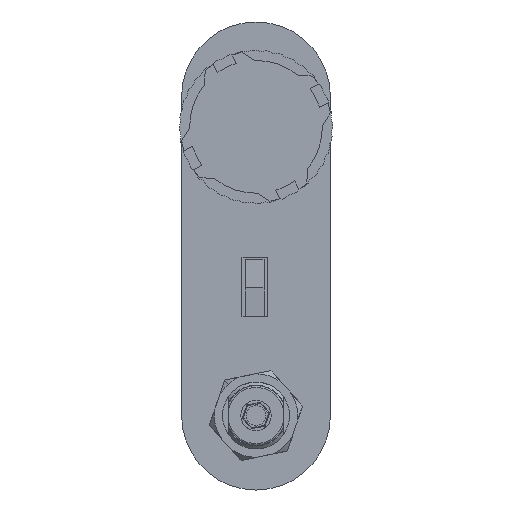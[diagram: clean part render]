
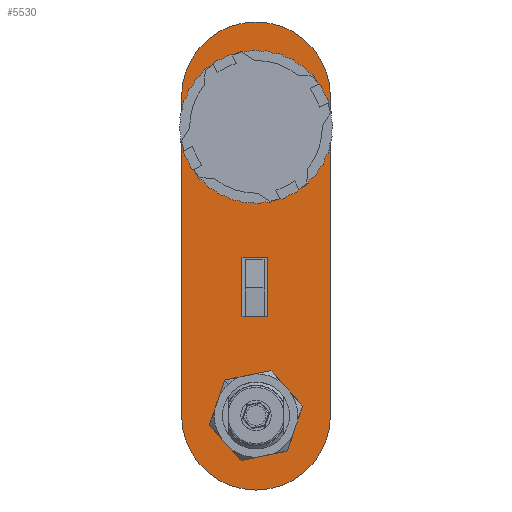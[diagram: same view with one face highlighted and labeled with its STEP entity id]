
A CAD part, front view. The second image highlights one B-rep face of the part: STEP entity #5530.
In plain terms, the highlighted planar face has unit normal (0, -1, 0).
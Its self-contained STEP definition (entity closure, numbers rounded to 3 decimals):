
#340 = EDGE_LOOP ( 'NONE', ( #3621, #3622 ) ) ;
#354 = EDGE_LOOP ( 'NONE', ( #3617, #3618, #3619, #3620 ) ) ;
#366 = EDGE_LOOP ( 'NONE', ( #3613, #3614, #3615, #3616 ) ) ;
#387 = EDGE_LOOP ( 'NONE', ( #3623, #3624 ) ) ;
#1165 = VERTEX_POINT ( 'NONE', #2217 ) ;
#1166 = VERTEX_POINT ( 'NONE', #2218 ) ;
#1191 = VERTEX_POINT ( 'NONE', #2243 ) ;
#1192 = VERTEX_POINT ( 'NONE', #2244 ) ;
#1229 = VERTEX_POINT ( 'NONE', #2281 ) ;
#1230 = VERTEX_POINT ( 'NONE', #2282 ) ;
#1231 = VERTEX_POINT ( 'NONE', #2283 ) ;
#1232 = VERTEX_POINT ( 'NONE', #2284 ) ;
#1233 = VERTEX_POINT ( 'NONE', #2285 ) ;
#1234 = VERTEX_POINT ( 'NONE', #2286 ) ;
#1235 = VERTEX_POINT ( 'NONE', #2287 ) ;
#1236 = VERTEX_POINT ( 'NONE', #2288 ) ;
#2217 = CARTESIAN_POINT ( 'NONE',  ( 22.5, 0., 95. ) ) ;
#2218 = CARTESIAN_POINT ( 'NONE',  ( -22.5, 0., 95. ) ) ;
#2243 = CARTESIAN_POINT ( 'NONE',  ( 11., 0., 0. ) ) ;
#2244 = CARTESIAN_POINT ( 'NONE',  ( -11., 0., 0. ) ) ;
#2281 = CARTESIAN_POINT ( 'NONE',  ( -4.614, 0., 32.5 ) ) ;
#2282 = CARTESIAN_POINT ( 'NONE',  ( 3.886, 0., 32.5 ) ) ;
#2283 = CARTESIAN_POINT ( 'NONE',  ( -4.614, 0., 52. ) ) ;
#2284 = CARTESIAN_POINT ( 'NONE',  ( 3.886, 0., 52. ) ) ;
#2285 = CARTESIAN_POINT ( 'NONE',  ( -24.5, 0., 105. ) ) ;
#2286 = CARTESIAN_POINT ( 'NONE',  ( -24.5, 0., 0. ) ) ;
#2287 = CARTESIAN_POINT ( 'NONE',  ( 24.5, 0., 0. ) ) ;
#2288 = CARTESIAN_POINT ( 'NONE',  ( 24.5, 0., 105. ) ) ;
#3613 = ORIENTED_EDGE ( 'NONE', *, *, #12119, .F. ) ;
#3614 = ORIENTED_EDGE ( 'NONE', *, *, #11972, .F. ) ;
#3615 = ORIENTED_EDGE ( 'NONE', *, *, #11927, .F. ) ;
#3616 = ORIENTED_EDGE ( 'NONE', *, *, #4162, .F. ) ;
#3617 = ORIENTED_EDGE ( 'NONE', *, *, #4160, .T. ) ;
#3618 = ORIENTED_EDGE ( 'NONE', *, *, #12382, .F. ) ;
#3619 = ORIENTED_EDGE ( 'NONE', *, *, #4175, .T. ) ;
#3620 = ORIENTED_EDGE ( 'NONE', *, *, #11940, .T. ) ;
#3621 = ORIENTED_EDGE ( 'NONE', *, *, #4181, .F. ) ;
#3622 = ORIENTED_EDGE ( 'NONE', *, *, #4170, .F. ) ;
#3623 = ORIENTED_EDGE ( 'NONE', *, *, #4173, .F. ) ;
#3624 = ORIENTED_EDGE ( 'NONE', *, *, #4229, .F. ) ;
#4160 = EDGE_CURVE ( 'NONE', #1233, #1234, #7964, .T. ) ;
#4162 = EDGE_CURVE ( 'NONE', #1230, #1232, #7982, .T. ) ;
#4170 = EDGE_CURVE ( 'NONE', #1191, #1192, #7996, .T. ) ;
#4173 = EDGE_CURVE ( 'NONE', #1166, #1165, #7999, .T. ) ;
#4175 = EDGE_CURVE ( 'NONE', #1235, #1236, #8000, .T. ) ;
#4181 = EDGE_CURVE ( 'NONE', #1192, #1191, #8011, .T. ) ;
#4229 = EDGE_CURVE ( 'NONE', #1165, #1166, #8073, .T. ) ;
#5530 = ADVANCED_FACE ( 'NONE', ( #16406, #16400, #16410, #16412 ), #18322, .F. ) ;
#7964 = LINE ( 'NONE', #10154, #7978 ) ;
#7978 = VECTOR ( 'NONE', #10159, 1000. ) ;
#7982 = LINE ( 'NONE', #10162, #7983 ) ;
#7983 = VECTOR ( 'NONE', #10163, 1000. ) ;
#7985 = VECTOR ( 'NONE', #10198, 1000. ) ;
#7996 = CIRCLE ( 'NONE', #8385, 11. ) ;
#7999 = CIRCLE ( 'NONE', #8386, 22.5 ) ;
#8000 = LINE ( 'NONE', #10183, #7985 ) ;
#8011 = CIRCLE ( 'NONE', #8391, 11. ) ;
#8073 = CIRCLE ( 'NONE', #8411, 22.5 ) ;
#8385 = AXIS2_PLACEMENT_3D ( 'NONE', #10170, #10184, #10185 ) ;
#8386 = AXIS2_PLACEMENT_3D ( 'NONE', #10191, #10192, #10193 ) ;
#8391 = AXIS2_PLACEMENT_3D ( 'NONE', #10211, #10212, #10213 ) ;
#8411 = AXIS2_PLACEMENT_3D ( 'NONE', #10312, #10314, #10315 ) ;
#9052 = AXIS2_PLACEMENT_3D ( 'NONE', #18325, #18327, #18328 ) ;
#10154 = CARTESIAN_POINT ( 'NONE',  ( -24.5, 0., 105. ) ) ;
#10159 = DIRECTION ( 'NONE',  ( 0., 0., -1. ) ) ;
#10162 = CARTESIAN_POINT ( 'NONE',  ( 3.886, 0., 52. ) ) ;
#10163 = DIRECTION ( 'NONE',  ( 0., 0., 1. ) ) ;
#10170 = CARTESIAN_POINT ( 'NONE',  ( 0., 0., 0. ) ) ;
#10183 = CARTESIAN_POINT ( 'NONE',  ( 24.5, 0., 0. ) ) ;
#10184 = DIRECTION ( 'NONE',  ( 0., -1., 0. ) ) ;
#10185 = DIRECTION ( 'NONE',  ( -1., 0., 0. ) ) ;
#10191 = CARTESIAN_POINT ( 'NONE',  ( 0., 0., 95. ) ) ;
#10192 = DIRECTION ( 'NONE',  ( 0., -1., 0. ) ) ;
#10193 = DIRECTION ( 'NONE',  ( -1., 0., 0. ) ) ;
#10198 = DIRECTION ( 'NONE',  ( 0., 0., 1. ) ) ;
#10211 = CARTESIAN_POINT ( 'NONE',  ( 0., 0., 0. ) ) ;
#10212 = DIRECTION ( 'NONE',  ( 0., -1., 0. ) ) ;
#10213 = DIRECTION ( 'NONE',  ( -1., 0., 0. ) ) ;
#10312 = CARTESIAN_POINT ( 'NONE',  ( 0., 0., 95. ) ) ;
#10314 = DIRECTION ( 'NONE',  ( 0., -1., 0. ) ) ;
#10315 = DIRECTION ( 'NONE',  ( -1., 0., 0. ) ) ;
#11927 = EDGE_CURVE ( 'NONE', #1232, #1231, #20429, .T. ) ;
#11940 = EDGE_CURVE ( 'NONE', #1236, #1233, #20439, .T. ) ;
#11972 = EDGE_CURVE ( 'NONE', #1231, #1229, #20455, .T. ) ;
#12119 = EDGE_CURVE ( 'NONE', #1229, #1230, #20510, .T. ) ;
#12382 = EDGE_CURVE ( 'NONE', #1235, #1234, #20617, .T. ) ;
#16400 = FACE_OUTER_BOUND ( 'NONE', #354, .T. ) ;
#16406 = FACE_BOUND ( 'NONE', #366, .T. ) ;
#16410 = FACE_BOUND ( 'NONE', #340, .T. ) ;
#16412 = FACE_BOUND ( 'NONE', #387, .T. ) ;
#18322 = PLANE ( 'NONE',  #9052 ) ;
#18325 = CARTESIAN_POINT ( 'NONE',  ( -13.926, 0., 105. ) ) ;
#18327 = DIRECTION ( 'NONE',  ( 0., 1., 0. ) ) ;
#18328 = DIRECTION ( 'NONE',  ( -1., 0., 0. ) ) ;
#19756 = AXIS2_PLACEMENT_3D ( 'NONE', #21688, #21696, #21697 ) ;
#19809 = AXIS2_PLACEMENT_3D ( 'NONE', #21987, #21989, #21990 ) ;
#20429 = LINE ( 'NONE', #21671, #20431 ) ;
#20431 = VECTOR ( 'NONE', #21682, 1000. ) ;
#20439 = CIRCLE ( 'NONE', #19756, 24.5 ) ;
#20455 = LINE ( 'NONE', #21723, #20456 ) ;
#20456 = VECTOR ( 'NONE', #21724, 1000. ) ;
#20510 = LINE ( 'NONE', #21803, #20511 ) ;
#20511 = VECTOR ( 'NONE', #21804, 1000. ) ;
#20617 = CIRCLE ( 'NONE', #19809, 24.5 ) ;
#21671 = CARTESIAN_POINT ( 'NONE',  ( -4.614, 0., 52. ) ) ;
#21682 = DIRECTION ( 'NONE',  ( -1., 0., 0. ) ) ;
#21688 = CARTESIAN_POINT ( 'NONE',  ( 0., 0., 105. ) ) ;
#21696 = DIRECTION ( 'NONE',  ( 0., -1., 0. ) ) ;
#21697 = DIRECTION ( 'NONE',  ( 0., 0., -1. ) ) ;
#21723 = CARTESIAN_POINT ( 'NONE',  ( -4.614, 0., 52. ) ) ;
#21724 = DIRECTION ( 'NONE',  ( 0., 0., -1. ) ) ;
#21803 = CARTESIAN_POINT ( 'NONE',  ( -4.614, 0., 32.5 ) ) ;
#21804 = DIRECTION ( 'NONE',  ( 1., 0., 0. ) ) ;
#21987 = CARTESIAN_POINT ( 'NONE',  ( 0., 0., 0. ) ) ;
#21989 = DIRECTION ( 'NONE',  ( 0., 1., 0. ) ) ;
#21990 = DIRECTION ( 'NONE',  ( 0., 0., 1. ) ) ;
